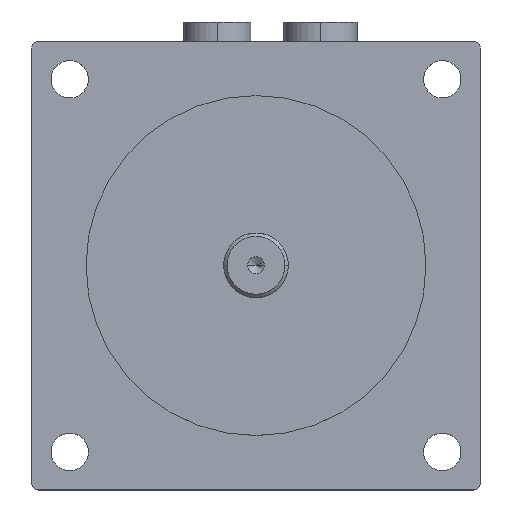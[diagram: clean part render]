
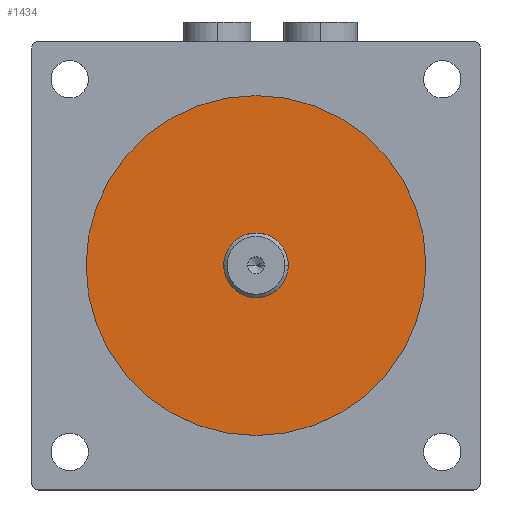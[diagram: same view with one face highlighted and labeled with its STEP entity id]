
A CAD part, top view. The second image highlights one B-rep face of the part: STEP entity #1434.
In plain terms, the highlighted planar face has unit normal (0, 0, 1).
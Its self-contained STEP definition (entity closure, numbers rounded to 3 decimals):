
#5 = AXIS2_PLACEMENT_3D ( 'NONE', #993, #1554, #281 ) ;
#112 = VERTEX_POINT ( 'NONE', #1410 ) ;
#140 = PLANE ( 'NONE',  #1053 ) ;
#200 = DIRECTION ( 'NONE',  ( 1., 0., 0. ) ) ;
#221 = EDGE_CURVE ( 'NONE', #1505, #271, #440, .T. ) ;
#229 = AXIS2_PLACEMENT_3D ( 'NONE', #1639, #368, #943 ) ;
#271 = VERTEX_POINT ( 'NONE', #1427 ) ;
#281 = DIRECTION ( 'NONE',  ( 1., 0., 0. ) ) ;
#303 = CARTESIAN_POINT ( 'NONE',  ( 50., 0., 15. ) ) ;
#368 = DIRECTION ( 'NONE',  ( 0., 0., 1. ) ) ;
#377 = ORIENTED_EDGE ( 'NONE', *, *, #221, .F. ) ;
#440 = CIRCLE ( 'NONE', #682, 9.5 ) ;
#488 = EDGE_LOOP ( 'NONE', ( #1757, #377 ) ) ;
#571 = VERTEX_POINT ( 'NONE', #303 ) ;
#594 = CARTESIAN_POINT ( 'NONE',  ( 0., 0., 15. ) ) ;
#682 = AXIS2_PLACEMENT_3D ( 'NONE', #914, #1474, #200 ) ;
#717 = CARTESIAN_POINT ( 'NONE',  ( 0., 0., 15. ) ) ;
#793 = CIRCLE ( 'NONE', #1827, 50. ) ;
#822 = CIRCLE ( 'NONE', #5, 50. ) ;
#833 = ORIENTED_EDGE ( 'NONE', *, *, #1425, .T. ) ;
#857 = FACE_BOUND ( 'NONE', #488, .T. ) ;
#884 = EDGE_CURVE ( 'NONE', #571, #112, #793, .T. ) ;
#914 = CARTESIAN_POINT ( 'NONE',  ( 0., 0., 15. ) ) ;
#943 = DIRECTION ( 'NONE',  ( 1., 0., 0. ) ) ;
#993 = CARTESIAN_POINT ( 'NONE',  ( 0., 0., 15. ) ) ;
#1039 = CIRCLE ( 'NONE', #229, 9.5 ) ;
#1053 = AXIS2_PLACEMENT_3D ( 'NONE', #717, #1279, #1843 ) ;
#1152 = EDGE_LOOP ( 'NONE', ( #833, #1789 ) ) ;
#1163 = DIRECTION ( 'NONE',  ( 0., 0., 1. ) ) ;
#1279 = DIRECTION ( 'NONE',  ( 0., 0., 1. ) ) ;
#1410 = CARTESIAN_POINT ( 'NONE',  ( -50., 0., 15. ) ) ;
#1419 = FACE_OUTER_BOUND ( 'NONE', #1152, .T. ) ;
#1425 = EDGE_CURVE ( 'NONE', #112, #571, #822, .T. ) ;
#1427 = CARTESIAN_POINT ( 'NONE',  ( -9.5, 0., 15. ) ) ;
#1434 = ADVANCED_FACE ( 'NONE', ( #857, #1419 ), #140, .T. ) ;
#1474 = DIRECTION ( 'NONE',  ( 0., 0., 1. ) ) ;
#1505 = VERTEX_POINT ( 'NONE', #1739 ) ;
#1554 = DIRECTION ( 'NONE',  ( 0., 0., 1. ) ) ;
#1639 = CARTESIAN_POINT ( 'NONE',  ( 0., 0., 15. ) ) ;
#1717 = EDGE_CURVE ( 'NONE', #271, #1505, #1039, .T. ) ;
#1725 = DIRECTION ( 'NONE',  ( 1., 0., 0. ) ) ;
#1739 = CARTESIAN_POINT ( 'NONE',  ( 9.5, 0., 15. ) ) ;
#1757 = ORIENTED_EDGE ( 'NONE', *, *, #1717, .F. ) ;
#1789 = ORIENTED_EDGE ( 'NONE', *, *, #884, .T. ) ;
#1827 = AXIS2_PLACEMENT_3D ( 'NONE', #594, #1163, #1725 ) ;
#1843 = DIRECTION ( 'NONE',  ( 1., 0., 0. ) ) ;
